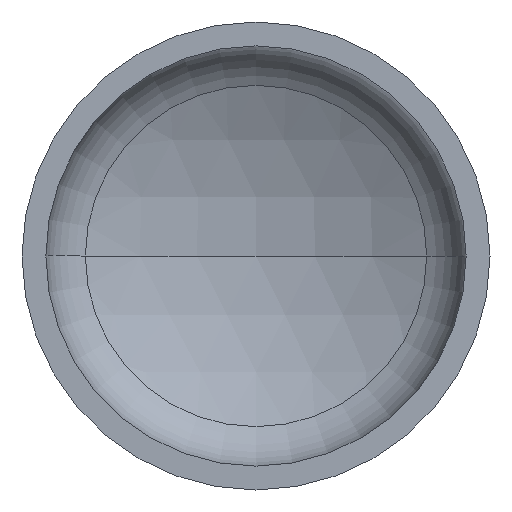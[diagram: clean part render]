
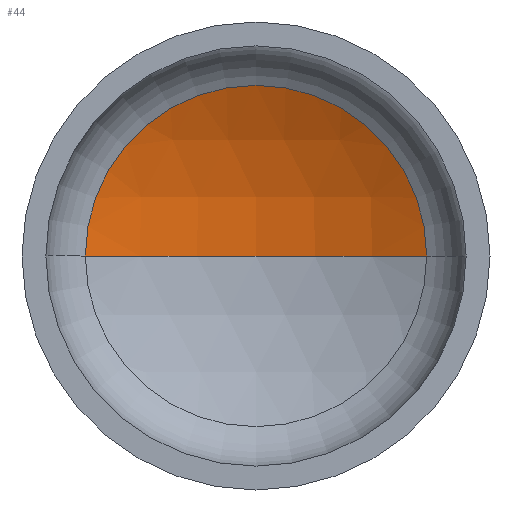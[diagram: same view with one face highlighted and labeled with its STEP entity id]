
A CAD part, front view. The second image highlights one B-rep face of the part: STEP entity #44.
In plain terms, the highlighted spherical face has radius 1600 mm.
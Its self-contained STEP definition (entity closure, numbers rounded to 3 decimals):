
#2 = AXIS2_PLACEMENT_3D ( 'NONE', #162, #164, #43 ) ;
#7 = EDGE_LOOP ( 'NONE', ( #114, #95, #101 ) ) ;
#8 = VERTEX_POINT ( 'NONE', #257 ) ;
#30 = AXIS2_PLACEMENT_3D ( 'NONE', #282, #286, #183 ) ;
#34 = AXIS2_PLACEMENT_3D ( 'NONE', #66, #177, #211 ) ;
#43 = DIRECTION ( 'NONE',  ( 1., 0., 0. ) ) ;
#44 = ADVANCED_FACE ( 'NONE', ( #201 ), #263, .F. ) ;
#47 = VERTEX_POINT ( 'NONE', #245 ) ;
#66 = CARTESIAN_POINT ( 'NONE',  ( 0., 350.923, 0. ) ) ;
#95 = ORIENTED_EDGE ( 'NONE', *, *, #355, .T. ) ;
#101 = ORIENTED_EDGE ( 'NONE', *, *, #353, .T. ) ;
#107 = AXIS2_PLACEMENT_3D ( 'NONE', #372, #297, #249 ) ;
#114 = ORIENTED_EDGE ( 'NONE', *, *, #410, .F. ) ;
#147 = VERTEX_POINT ( 'NONE', #224 ) ;
#162 = CARTESIAN_POINT ( 'NONE',  ( 0., -1073.197, 0. ) ) ;
#164 = DIRECTION ( 'NONE',  ( 0., 0., 1. ) ) ;
#177 = DIRECTION ( 'NONE',  ( 0., -1., 0. ) ) ;
#183 = DIRECTION ( 'NONE',  ( -1., 0., 0. ) ) ;
#201 = FACE_OUTER_BOUND ( 'NONE', #7, .T. ) ;
#209 = CIRCLE ( 'NONE', #34, 729.302 ) ;
#211 = DIRECTION ( 'NONE',  ( 1., 0., 0. ) ) ;
#224 = CARTESIAN_POINT ( 'NONE',  ( -729.302, 350.923, 0. ) ) ;
#245 = CARTESIAN_POINT ( 'NONE',  ( 0., 526.803, 0. ) ) ;
#249 = DIRECTION ( 'NONE',  ( -1., 0., 0. ) ) ;
#257 = CARTESIAN_POINT ( 'NONE',  ( 729.302, 350.923, 0. ) ) ;
#263 = SPHERICAL_SURFACE ( 'NONE', #107, 1600. ) ;
#282 = CARTESIAN_POINT ( 'NONE',  ( 0., -1073.197, 0. ) ) ;
#286 = DIRECTION ( 'NONE',  ( 0., 0., -1. ) ) ;
#297 = DIRECTION ( 'NONE',  ( 0., 0., -1. ) ) ;
#324 = CIRCLE ( 'NONE', #30, 1600. ) ;
#353 = EDGE_CURVE ( 'NONE', #8, #147, #209, .T. ) ;
#355 = EDGE_CURVE ( 'NONE', #47, #8, #324, .T. ) ;
#366 = CIRCLE ( 'NONE', #2, 1600. ) ;
#372 = CARTESIAN_POINT ( 'NONE',  ( 0., -1073.197, 0. ) ) ;
#410 = EDGE_CURVE ( 'NONE', #47, #147, #366, .T. ) ;
